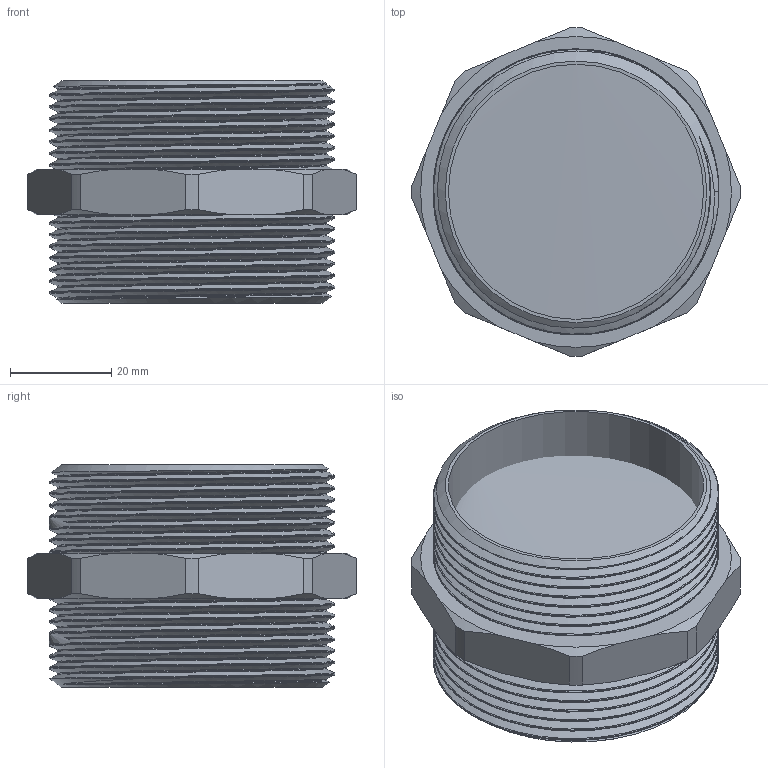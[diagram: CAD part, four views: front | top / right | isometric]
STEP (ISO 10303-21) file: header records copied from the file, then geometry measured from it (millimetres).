
FILE_DESCRIPTION(/* description */ (''),/* implementation_level */ '2;1');
FILE_NAME(/* name */ 'C:\Users\Doom\Desktop\Фадотех\Резьба\N06 18.03.2020\N06 18.03.2020.stp',/* time_stamp */ '2022-01-07T17:56:32+02:00',/* author */ ('Doom'),/* organization */ (''),/* preprocessor_version */ 'ST-DEVELOPER v18',/* originating_system */ 'Autodesk Inventor 2020',/* authorisation */ '');
FILE_SCHEMA (('AUTOMOTIVE_DESIGN { 1 0 10303 214 3 1 1 }'));
Length unit declared in the file: millimetre
Products named in the file (1): N06 18.03.2020
Bounding box: 64.99 x 64.99 x 44 mm (x, y, z)
Volume: 29613.7 mm3; surface area: 22232.9 mm2
Topology: 1 solids, 1 shells, 69 faces, 193 edges, 128 vertices
Faces by surface type: cylinder 26, cone 19, bspline 12, plane 12
Full cylindrical faces by diameter (mm): 50.5 x1, 56.6 x13
Entity records: 10887 total; most frequent: CARTESIAN_POINT 9288, ORIENTED_EDGE 386, DIRECTION 251, EDGE_CURVE 193, VERTEX_POINT 128, AXIS2_PLACEMENT_3D 100, EDGE_LOOP 73, FACE_OUTER_BOUND 69
